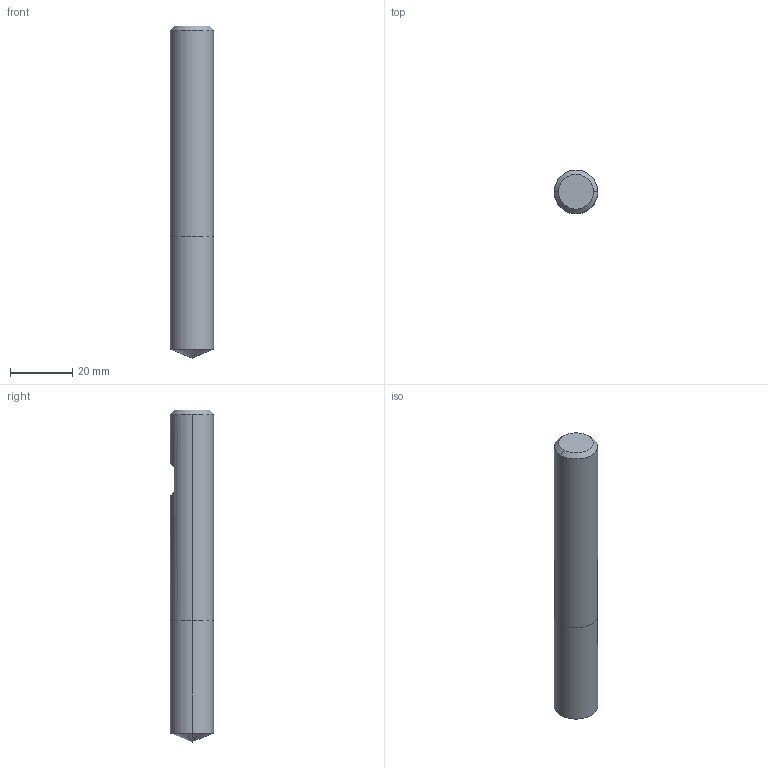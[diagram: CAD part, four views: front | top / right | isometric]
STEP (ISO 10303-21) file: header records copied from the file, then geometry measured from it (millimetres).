
FILE_DESCRIPTION (( 'STEP AP214' ), '1' );
FILE_NAME ('810.140.10_3D-model.step', '2022-02-23T22:49:32', ( '' ), ( '' ), 'SwSTEP 2.0', 'SolidWorks 2020', '' );
FILE_SCHEMA (( 'AUTOMOTIVE_DESIGN' ));
Length unit declared in the file: millimetre
Products named in the file (3): CUT-3D^Baugr179; NOCUT-3D^Baugr179; 810.140.10_3D-model
Assembly tree (2 placements, depth 2):
  810.140.10_3D-model
    CUT-3D^Baugr179
    NOCUT-3D^Baugr179
Bounding box: 14 x 14 x 107 mm (x, y, z)
Volume: 16068.6 mm3; surface area: 5169.5 mm2
Topology: 2 solids, 2 shells, 14 faces, 26 edges, 15 vertices
Faces by surface type: plane 6, cone 4, cylinder 4
Entity records: 456 total; most frequent: DIRECTION 76, CARTESIAN_POINT 67, ORIENTED_EDGE 48, AXIS2_PLACEMENT_3D 32, EDGE_CURVE 24, EDGE_LOOP 15, VERTEX_POINT 15, FACE_OUTER_BOUND 14
